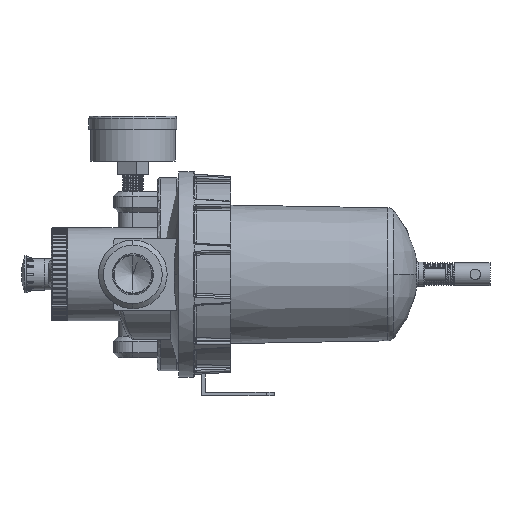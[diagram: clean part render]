
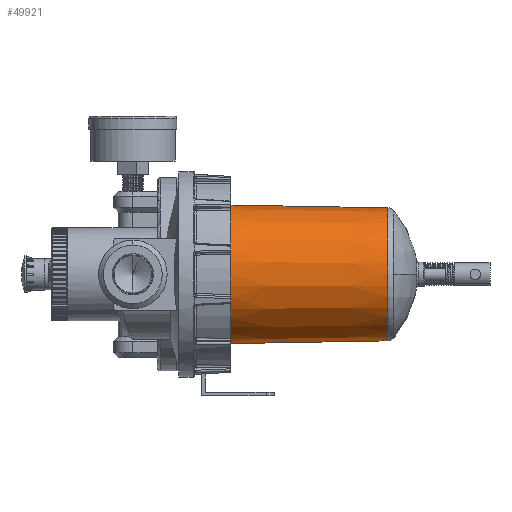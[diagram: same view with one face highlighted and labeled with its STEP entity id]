
A CAD part, left-side view. The second image highlights one B-rep face of the part: STEP entity #49921.
In plain terms, the highlighted conical face has half-angle 1 degrees and reference radius 40.75 mm.
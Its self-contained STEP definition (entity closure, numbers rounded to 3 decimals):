
#1197 = FACE_OUTER_BOUND ( 'NONE', #66367, .T. ) ;
#1914 = VERTEX_POINT ( 'NONE', #59449 ) ;
#2125 = DIRECTION ( 'NONE',  ( 0., 1., -0.017 ) ) ;
#3861 = CARTESIAN_POINT ( 'NONE',  ( 0., 2.184, 40.788 ) ) ;
#4813 = DIRECTION ( 'NONE',  ( 0., 1., 0. ) ) ;
#5034 = DIRECTION ( 'NONE',  ( 0., 0., 1. ) ) ;
#5888 = DIRECTION ( 'NONE',  ( 0., 1., 0. ) ) ;
#6908 = LINE ( 'NONE', #44378, #52596 ) ;
#8879 = CARTESIAN_POINT ( 'NONE',  ( 0., 98.5, -42.469 ) ) ;
#15213 = CIRCLE ( 'NONE', #16814, 42.469 ) ;
#15270 = EDGE_CURVE ( 'NONE', #48372, #1914, #15213, .T. ) ;
#16188 = ORIENTED_EDGE ( 'NONE', *, *, #22464, .T. ) ;
#16316 = EDGE_CURVE ( 'NONE', #18610, #1914, #55292, .T. ) ;
#16814 = AXIS2_PLACEMENT_3D ( 'NONE', #21033, #4813, #5034 ) ;
#16914 = CARTESIAN_POINT ( 'NONE',  ( 0., 2.184, -40.788 ) ) ;
#18610 = VERTEX_POINT ( 'NONE', #3861 ) ;
#21033 = CARTESIAN_POINT ( 'NONE',  ( 0., 98.5, 0. ) ) ;
#21964 = ORIENTED_EDGE ( 'NONE', *, *, #16316, .T. ) ;
#22353 = CARTESIAN_POINT ( 'NONE',  ( 0., 2.184, 0. ) ) ;
#22464 = EDGE_CURVE ( 'NONE', #63484, #18610, #45872, .T. ) ;
#23038 = CARTESIAN_POINT ( 'NONE',  ( 0., 0., 0. ) ) ;
#27464 = DIRECTION ( 'NONE',  ( 0., 0., -1. ) ) ;
#27920 = DIRECTION ( 'NONE',  ( 0., 0., 1. ) ) ;
#28069 = ORIENTED_EDGE ( 'NONE', *, *, #33927, .F. ) ;
#33927 = EDGE_CURVE ( 'NONE', #63484, #48372, #6908, .T. ) ;
#36672 = ORIENTED_EDGE ( 'NONE', *, *, #15270, .F. ) ;
#37754 = AXIS2_PLACEMENT_3D ( 'NONE', #22353, #5888, #27464 ) ;
#39402 = CARTESIAN_POINT ( 'NONE',  ( 0., 0., 40.75 ) ) ;
#39903 = DIRECTION ( 'NONE',  ( 0., 1., 0.017 ) ) ;
#40249 = CONICAL_SURFACE ( 'NONE', #53989, 40.75, 0.017 ) ;
#44378 = CARTESIAN_POINT ( 'NONE',  ( 0., 0., -40.75 ) ) ;
#45872 = CIRCLE ( 'NONE', #37754, 40.788 ) ;
#48372 = VERTEX_POINT ( 'NONE', #8879 ) ;
#49921 = ADVANCED_FACE ( 'NONE', ( #1197 ), #40249, .T. ) ;
#52596 = VECTOR ( 'NONE', #2125, 1000. ) ;
#53989 = AXIS2_PLACEMENT_3D ( 'NONE', #23038, #55034, #27920 ) ;
#55034 = DIRECTION ( 'NONE',  ( 0., 1., 0. ) ) ;
#55292 = LINE ( 'NONE', #39402, #56975 ) ;
#56975 = VECTOR ( 'NONE', #39903, 1000. ) ;
#59449 = CARTESIAN_POINT ( 'NONE',  ( 0., 98.5, 42.469 ) ) ;
#63484 = VERTEX_POINT ( 'NONE', #16914 ) ;
#66367 = EDGE_LOOP ( 'NONE', ( #28069, #16188, #21964, #36672 ) ) ;
